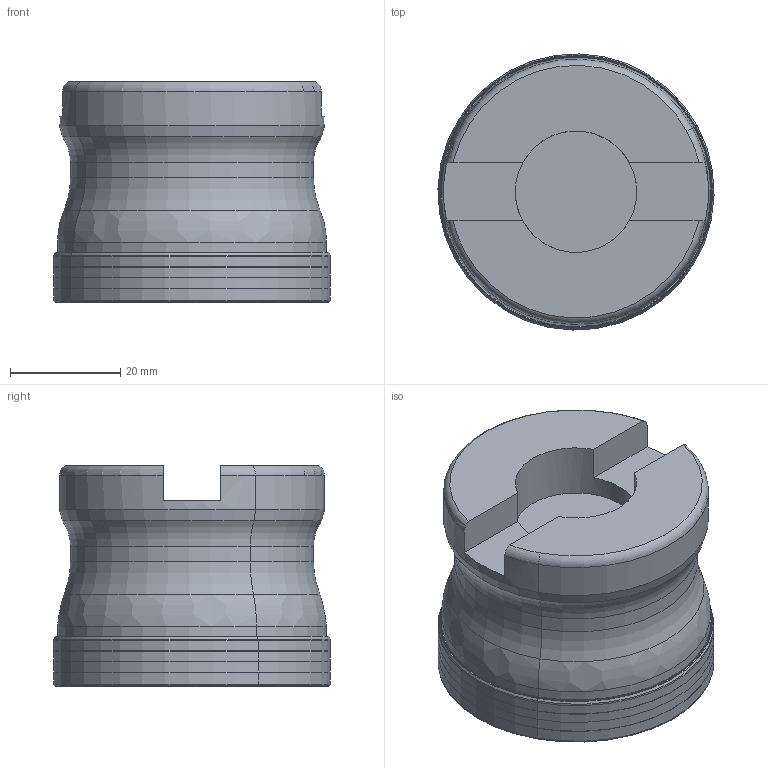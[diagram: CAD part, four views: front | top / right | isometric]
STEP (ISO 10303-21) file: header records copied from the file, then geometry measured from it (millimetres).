
FILE_DESCRIPTION(('CATIA V5 STEP','CAx-IF Rec.Pracs.--- Model Styling and Organization---1.2---2011-12-15'),'2;1');
FILE_NAME('N:\data\isr\design\special1\users\EVA_U\Requests\NPA\3106657_H690 F90AX D050-7-22-10\H690 F90AX D050-7-22-10.stp','2015-12-22T07:52:02+00:00',('none'),('none'),'CATIA Version 5 Release 21 SP 5 (IN-10)','CATIA V5 STEP AP214','none');
FILE_SCHEMA(('AUTOMOTIVE_DESIGN { 1 0 10303 214 1 1 1 1 }'));
Length unit declared in the file: millimetre
Products named in the file (1): H690 F90AX D050-7-22-10
Bounding box: 49.99 x 49.99 x 40 mm (x, y, z)
Volume: 67327.2 mm3; surface area: 14052.4 mm2
Topology: 2 solids, 2 shells, 105 faces, 220 edges, 118 vertices
Faces by surface type: torus 50, cone 18, cylinder 18, plane 11, revolution 8
Entity records: 2616 total; most frequent: CARTESIAN_POINT 604, ORIENTED_EDGE 440, DIRECTION 322, EDGE_CURVE 220, AXIS2_PLACEMENT_3D 210, CIRCLE 156, VERTEX_POINT 118, EDGE_LOOP 106
